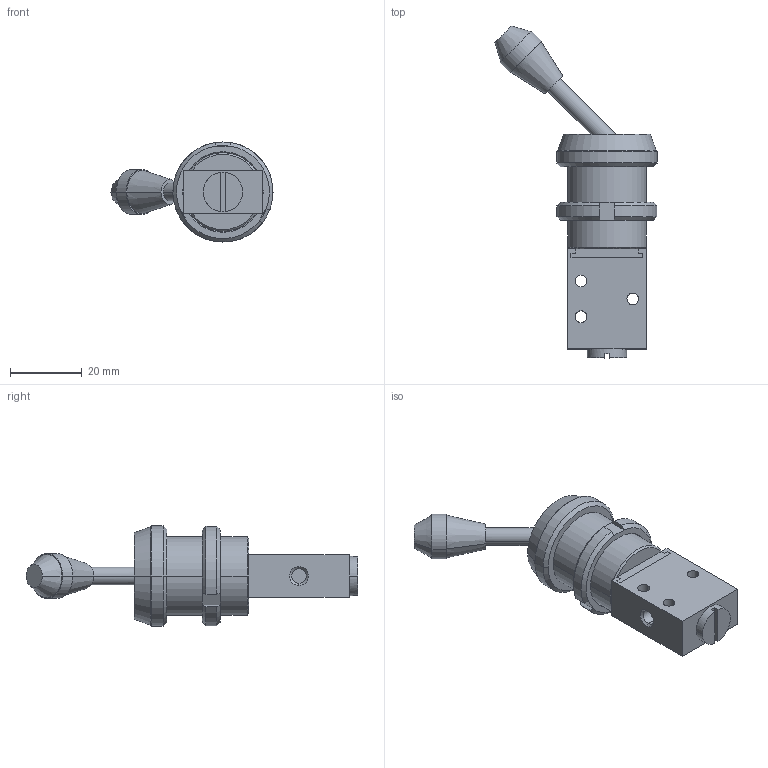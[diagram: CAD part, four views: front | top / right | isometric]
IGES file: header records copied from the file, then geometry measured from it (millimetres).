
Global section: file name: No Iges File Name specified; native system: AutoDesk Inventor R12.0; preprocessor: AutoDesk Inventor Iges Exporter R12.0; date: 20080225.141253; units: millimetre
Bounding box: 45.3 x 92.8 x 28 mm (x, y, z)
Volume: 23886.1 mm3; surface area: 8949.8 mm2
Topology: 3 solids, 3 shells, 114 faces, 268 edges, 170 vertices
Faces by surface type: plane 54, bspline 19, cone 18, cylinder 13, revolution 10
